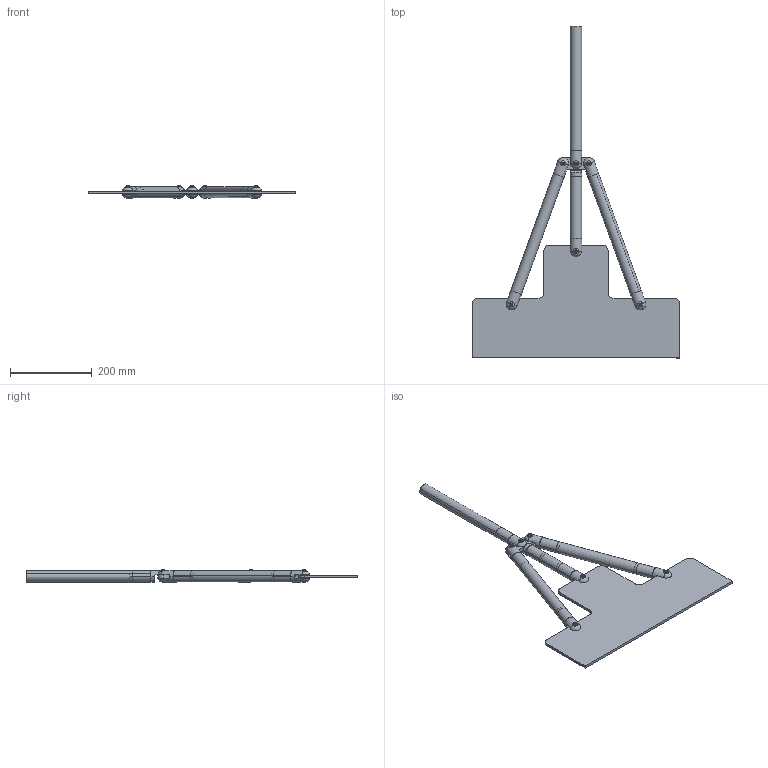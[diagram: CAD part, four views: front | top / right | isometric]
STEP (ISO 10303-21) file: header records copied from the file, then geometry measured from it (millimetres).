
FILE_DESCRIPTION (( 'STEP AP214' ), '1' );
FILE_NAME ('Plate and Tube Structure.STEP', '2013-12-05T20:30:10', ( 'ydmin' ), ( 'Microsoft' ), 'SwSTEP 2.0', 'SolidWorks 2013', '' );
FILE_SCHEMA (( 'AUTOMOTIVE_DESIGN' ));
Length unit declared in the file: inch
Products named in the file (9): 6 Inch Tube; 12 Inch Tube; DRP-002-0511-00; DRP-002-0534-00; Plate and Tube Structure; DRP-002-0512-00; DRP-002-0510-00; 91255A542_91255A542; End Of Arm Platee
Assembly tree (19 placements, depth 2):
  Plate and Tube Structure
    DRP-002-0534-00
    DRP-002-0511-00
    12 Inch Tube  x3
    6 Inch Tube
    End Of Arm Platee
    91255A542_91255A542  x6
    DRP-002-0510-00  x5
    DRP-002-0512-00
Bounding box: 508 x 811.14 x 30.82 mm (x, y, z)
Volume: 887559.4 mm3; surface area: 479092.5 mm2
Topology: 25 solids, 25 shells, 1453 faces, 3076 edges, 1679 vertices
Faces by surface type: cylinder 614, cone 584, plane 169, bspline 48, sphere 24, torus 14
Entity records: 16390 total; most frequent: CARTESIAN_POINT 7463, DIRECTION 1501, ORIENTED_EDGE 1422, EDGE_CURVE 711, AXIS2_PLACEMENT_3D 589, VERTEX_POINT 411, EDGE_LOOP 356, FACE_OUTER_BOUND 326
